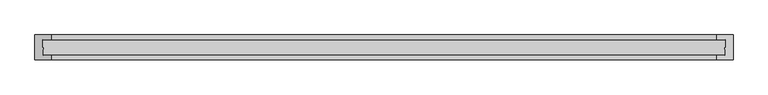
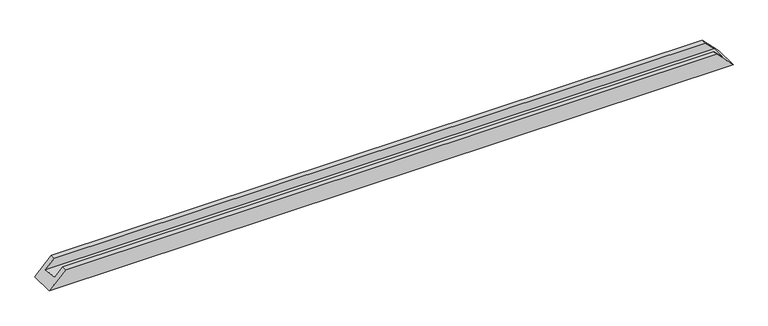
"""IFC4 building model written with IfcOpenShell, lengths in millimetres: proxy geometry, Weiku - Montante - Caixilho duplo 02.2.01.002 : Weiku - Montante - Caixilho duplo 02.2.01.002."""

from ifc_helpers import new_model, si_unit, origin, place, context, project, spatial, faceted_brep, source, transform, mapped, element, save


def generic_models_6c1954f8(model_context):
    return source(origin(), model_context, "Body", "Brep", [
        faceted_brep([(-1049.5, 15.0, 26.0), (-1023.5, 15.0, 52.0), (1023.5, 15.0, 52.0), (1049.5, 15.0, 26.0), (-1051.7229744, 62.0, 23.7770256), (1051.7229744, 62.0, 23.7770256), (-1023.5, 62.0, 52.0), (1023.5, 62.0, 52.0), (-1023.5, 77.0, 52.0), (1023.5, 77.0, 52.0), (1075.5, 77.0, 0.0), (-1075.5, 77.0, 0.0), (1075.5, 0.0, 0.0), (-1075.5, 0.0, 0.0), (1023.5, 0.0, 52.0), (-1023.5, 0.0, 52.0)], [[[0, 1, 2, 3]], [[4, 0, 3, 5]], [[6, 4, 5, 7]], [[8, 6, 7, 9]], [[10, 11, 8, 9]], [[11, 10, 12, 13]], [[13, 12, 14, 15]], [[1, 15, 14, 2]], [[1, 0, 4, 6, 8, 11, 13, 15]], [[3, 2, 14, 12, 10, 9, 7, 5]]]),
    ])


if __name__ == "__main__":
    model = new_model("IFC4")
    model_context = context("Model", 3, world=origin())
    ifc_project = project(units=[si_unit("LENGTHUNIT", "METRE", prefix="MILLI")], contexts=[model_context])
    site = spatial("IfcSite", under=ifc_project)
    building = spatial("IfcBuilding", under=site)
    placement = place(None, origin())
    generic_models_shape = generic_models_6c1954f8(model_context)
    element("IfcBuildingElementProxy", 1, Name="Weiku - Montante - Caixilho duplo 02.2.01.002 : Weiku - Montante - Caixilho duplo 02.2.01.002", ObjectType="Weiku - Montante - Caixilho duplo 02.2.01.002 : Weiku - Montante - Caixilho duplo 02.2.01.002", at=placement, inside=building, context=model_context, shape_type="MappedRepresentation", body=[
        mapped(generic_models_shape, transform((0.0, 0.0, 0.0), x_axis=(1.0, 0.0, 0.0), y_axis=(0.0, 1.0, 0.0), z_axis=(0.0, 0.0, 1.0))),
    ])
    save(model, "model.ifc")
